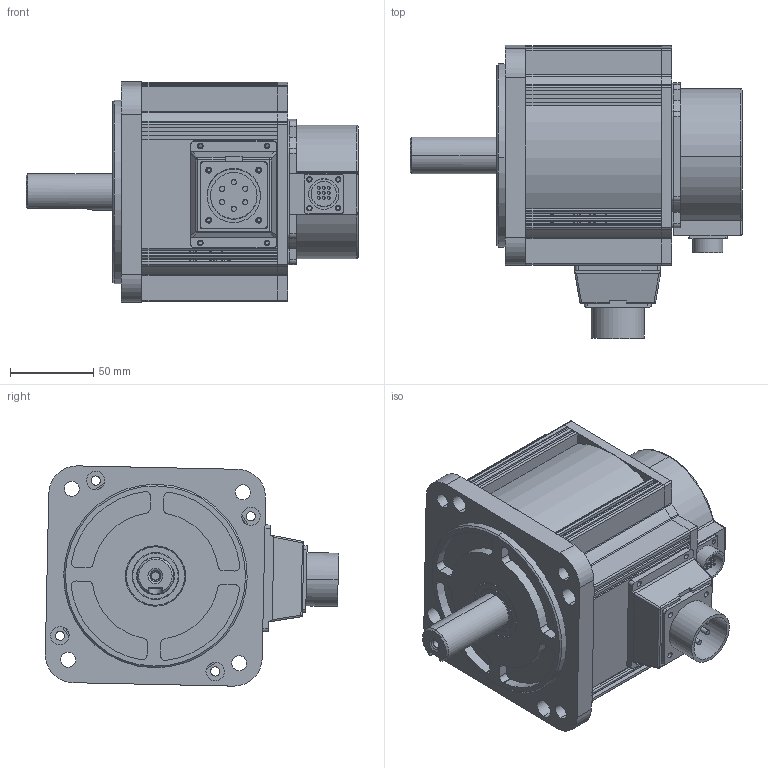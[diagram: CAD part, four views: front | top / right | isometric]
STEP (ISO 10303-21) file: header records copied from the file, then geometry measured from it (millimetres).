
FILE_DESCRIPTION (( 'STEP AP214' ), '1' );
FILE_NAME ('MS6H-130-05415嫖晤蚾饜极-3D.STEP', '2020-04-30T00:25:22', ( '' ), ( '' ), 'SwSTEP 2.0', 'SolidWorks 2016', '' );
FILE_SCHEMA (( 'AUTOMOTIVE_DESIGN' ));
Length unit declared in the file: millimetre
Products named in the file (1): MS6H-130-05415嫖晤蚾饜极-3D
Bounding box: 199 x 175.83 x 132.02 mm (x, y, z)
Surface area: 158696.3 mm2 (no closed solid volume)
Topology: 0 solids, 78 shells, 1421 faces, 4904 edges, 3561 vertices
Faces by surface type: cylinder 775, plane 620, cone 12, torus 9, sphere 4, bspline 1
Entity records: 69526 total; most frequent: CARTESIAN_POINT 10543, DIRECTION 9732, ORIENTED_EDGE 7771, EDGE_CURVE 4904, VERTEX_POINT 3561, AXIS2_PLACEMENT_3D 3426, LINE 2880, VECTOR 2880
